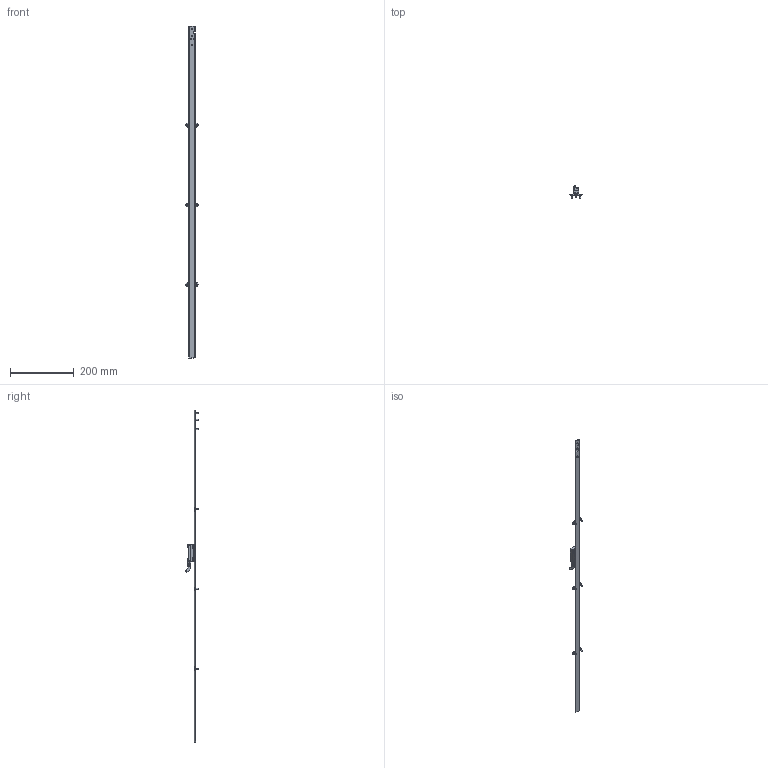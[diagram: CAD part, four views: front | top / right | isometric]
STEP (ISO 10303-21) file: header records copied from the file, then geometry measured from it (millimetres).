
FILE_DESCRIPTION (( 'STEP AP214' ), '1' );
FILE_NAME ('LA12_AS10_TRS_scale.STEP', '2021-10-22T11:27:49', ( '' ), ( '' ), 'SwSTEP 2.0', 'SolidWorks 2020', '' );
FILE_SCHEMA (( 'AUTOMOTIVE_DESIGN' ));
Length unit declared in the file: millimetre
Products named in the file (8): Bolt_M2x4_RLS; AS10_magnetic_scale; LA12_AS10_TRS_scale; Profile-1; Bolt_M3x10_RLS; Profile-2; LA12_readhead; Washer-conicalM3
Assembly tree (20 placements, depth 2):
  LA12_AS10_TRS_scale
    Profile-2
    AS10_magnetic_scale
    Profile-1
    Bolt_M3x10_RLS  x9
    Washer-conicalM3  x6
    Bolt_M2x4_RLS
    LA12_readhead
Bounding box: 37.98 x 39.5 x 1041 mm (x, y, z)
Volume: 89576.7 mm3; surface area: 81531.2 mm2
Topology: 20 solids, 21 shells, 749 faces, 1728 edges, 1046 vertices
Faces by surface type: plane 346, cylinder 211, cone 149, torus 36, bspline 5, sphere 2
Entity records: 14972 total; most frequent: CARTESIAN_POINT 2672, DIRECTION 2445, ORIENTED_EDGE 2236, EDGE_CURVE 1118, AXIS2_PLACEMENT_3D 879, VERTEX_POINT 698, LINE 687, VECTOR 687
